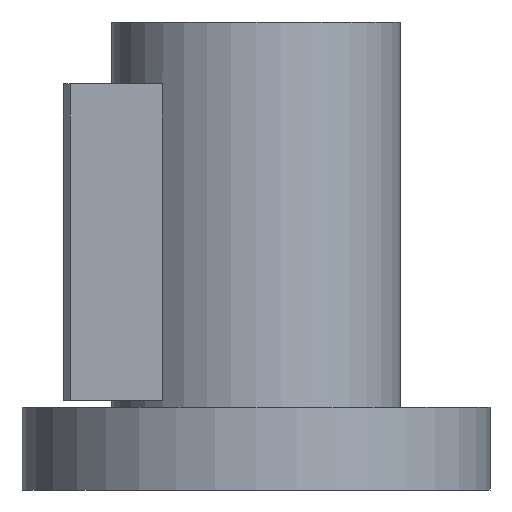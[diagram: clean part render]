
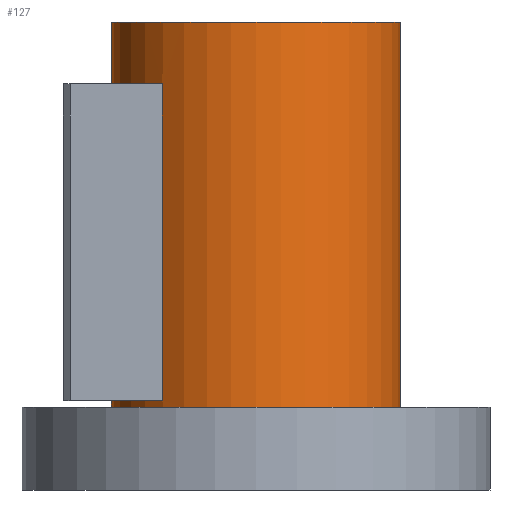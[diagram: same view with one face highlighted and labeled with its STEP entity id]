
A CAD part, front view. The second image highlights one B-rep face of the part: STEP entity #127.
In plain terms, the highlighted cylindrical face has radius 21 mm (diameter 42 mm), a full revolution.
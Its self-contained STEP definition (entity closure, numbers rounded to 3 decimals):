
#127=ADVANCED_FACE('',(#200,#201,#202),#155,.T.);
#155=CYLINDRICAL_SURFACE('',#508,21.);
#168=LINE('',#698,#184);
#169=LINE('',#702,#185);
#184=VECTOR('',#568,1.);
#185=VECTOR('',#571,1.);
#200=FACE_BOUND('',#245,.T.);
#201=FACE_BOUND('',#246,.T.);
#202=FACE_BOUND('',#247,.T.);
#245=EDGE_LOOP('',(#305));
#246=EDGE_LOOP('',(#306));
#247=EDGE_LOOP('',(#307,#308,#309,#310));
#305=ORIENTED_EDGE('',*,*,#431,.F.);
#306=ORIENTED_EDGE('',*,*,#432,.T.);
#307=ORIENTED_EDGE('',*,*,#433,.F.);
#308=ORIENTED_EDGE('',*,*,#434,.F.);
#309=ORIENTED_EDGE('',*,*,#435,.T.);
#310=ORIENTED_EDGE('',*,*,#436,.F.);
#393=VERTEX_POINT('',#692);
#394=VERTEX_POINT('',#694);
#395=VERTEX_POINT('',#696);
#396=VERTEX_POINT('',#697);
#397=VERTEX_POINT('',#699);
#398=VERTEX_POINT('',#701);
#431=EDGE_CURVE('',#393,#393,#475,.T.);
#432=EDGE_CURVE('',#394,#394,#476,.T.);
#433=EDGE_CURVE('',#395,#396,#477,.T.);
#434=EDGE_CURVE('',#397,#395,#168,.T.);
#435=EDGE_CURVE('',#397,#398,#478,.T.);
#436=EDGE_CURVE('',#396,#398,#169,.T.);
#475=CIRCLE('',#504,21.);
#476=CIRCLE('',#505,21.);
#477=CIRCLE('',#506,21.);
#478=CIRCLE('',#507,21.);
#504=AXIS2_PLACEMENT_3D('',#691,#562,#563);
#505=AXIS2_PLACEMENT_3D('',#693,#564,#565);
#506=AXIS2_PLACEMENT_3D('',#695,#566,#567);
#507=AXIS2_PLACEMENT_3D('',#700,#569,#570);
#508=AXIS2_PLACEMENT_3D('',#703,#572,#573);
#562=DIRECTION('',(0.,0.,1.));
#563=DIRECTION('',(1.,0.,0.));
#564=DIRECTION('',(0.,0.,1.));
#565=DIRECTION('',(1.,0.,0.));
#566=DIRECTION('',(0.,0.,-1.));
#567=DIRECTION('',(-1.,0.,0.));
#568=DIRECTION('',(0.,0.,1.));
#569=DIRECTION('',(0.,0.,-1.));
#570=DIRECTION('',(-1.,0.,0.));
#571=DIRECTION('',(0.,0.,-1.));
#572=DIRECTION('',(0.,0.,-1.));
#573=DIRECTION('',(-1.,0.,0.));
#691=CARTESIAN_POINT('',(0.,0.,68.));
#692=CARTESIAN_POINT('',(21.,0.,68.));
#693=CARTESIAN_POINT('',(0.,0.,12.));
#694=CARTESIAN_POINT('',(21.,0.,12.));
#695=CARTESIAN_POINT('',(0.,0.,59.));
#696=CARTESIAN_POINT('',(-13.601,-16.,59.));
#697=CARTESIAN_POINT('',(-13.601,16.,59.));
#698=CARTESIAN_POINT('',(-13.601,-16.,68.));
#699=CARTESIAN_POINT('',(-13.601,-16.,13.));
#700=CARTESIAN_POINT('',(0.,0.,13.));
#701=CARTESIAN_POINT('',(-13.601,16.,13.));
#702=CARTESIAN_POINT('',(-13.601,16.,68.));
#703=CARTESIAN_POINT('',(0.,0.,68.));
